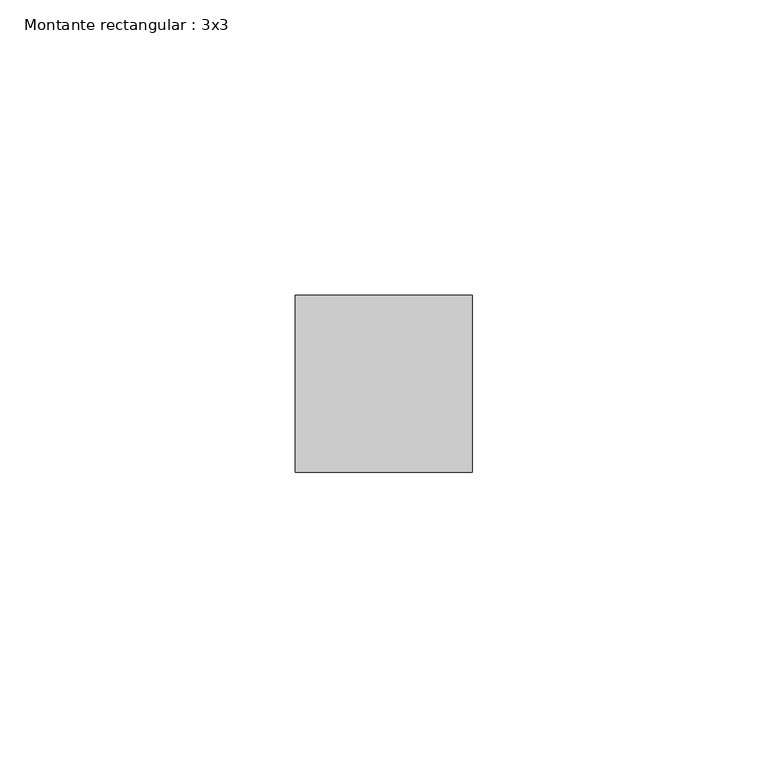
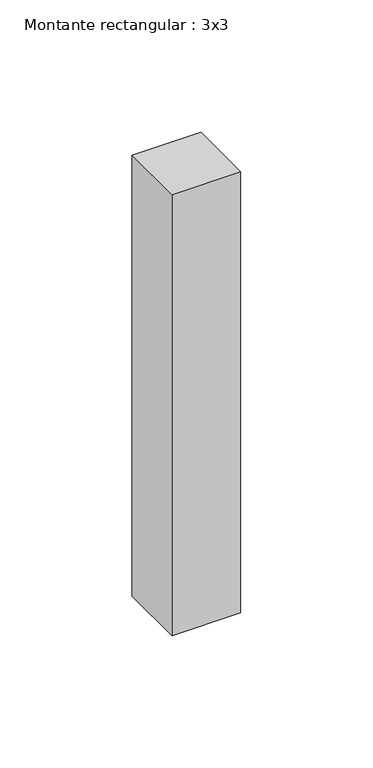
"""IFC4 building model written with IfcOpenShell, lengths in millimetres: member geometry, Montante rectangular : 3x3."""

from ifc_helpers import new_model, si_unit, frame, origin, place, context, project, spatial, polyline, outline, extrude, source, transform, mapped, element, save


def montante_rectangular_3x3_5f3f12a8(model_context):
    return source(origin(), model_context, "Body", "SweptSolid", [
        extrude(outline(polyline([(0.0, 15.0), (0.0, -15.0), (-30.0, -15.0), (-30.0, 15.0), (0.0, 15.0)])), frame((0.0, 0.0, -203.5244088), z_axis=(0.0, 0.0, 1.0), x_axis=(1.0, 0.0, 0.0)), (0.0, 0.0, 1.0), 203.5244088),
    ])


if __name__ == "__main__":
    model = new_model("IFC4")
    model_context = context("Model", 3, world=origin())
    ifc_project = project(units=[si_unit("LENGTHUNIT", "METRE", prefix="MILLI")], contexts=[model_context])
    site = spatial("IfcSite", under=ifc_project)
    building = spatial("IfcBuilding", under=site)
    placement = place(None, origin())
    montante_rectangular_3x3_shape = montante_rectangular_3x3_5f3f12a8(model_context)
    element("IfcMember", 1, ObjectType="Montante rectangular : 3x3", at=placement, inside=building, context=model_context, shape_type="MappedRepresentation", body=[
        mapped(montante_rectangular_3x3_shape, transform((0.0, 0.0, 0.0), x_axis=(1.0, 0.0, 0.0), y_axis=(0.0, 1.0, 0.0), z_axis=(0.0, 0.0, 1.0))),
    ])
    save(model, "model.ifc")
